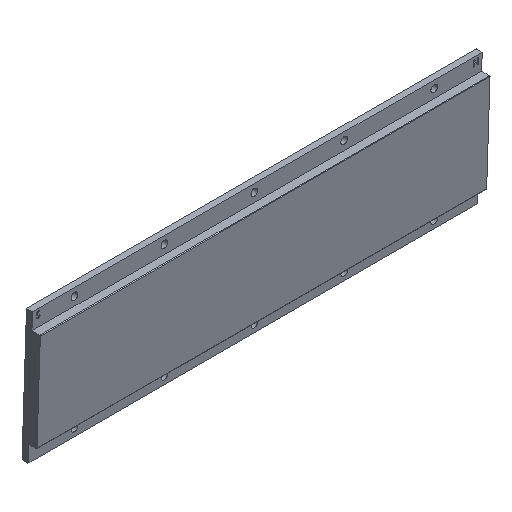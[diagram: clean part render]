
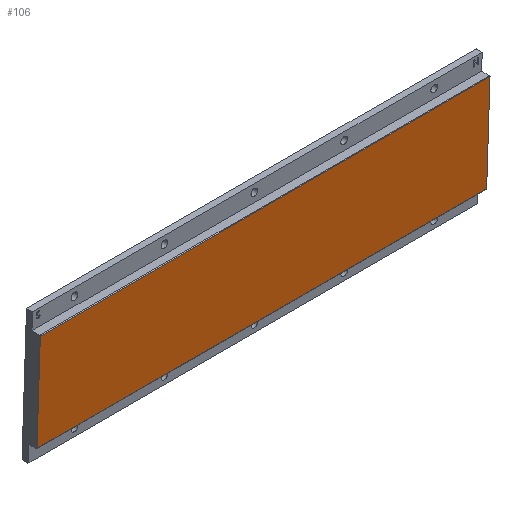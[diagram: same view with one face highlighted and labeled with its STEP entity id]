
A CAD part, isometric view. The second image highlights one B-rep face of the part: STEP entity #106.
In plain terms, the highlighted planar face has unit normal (0, -1, 0).
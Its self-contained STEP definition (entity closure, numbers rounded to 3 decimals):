
#106 = ADVANCED_FACE( '', ( #242 ), #243, .T. );
#242 = FACE_OUTER_BOUND( '', #402, .T. );
#243 = PLANE( '', #403 );
#402 = EDGE_LOOP( '', ( #675, #676, #677, #678 ) );
#403 = AXIS2_PLACEMENT_3D( '', #679, #680, #681 );
#675 = ORIENTED_EDGE( '', *, *, #1007, .T. );
#676 = ORIENTED_EDGE( '', *, *, #1001, .T. );
#677 = ORIENTED_EDGE( '', *, *, #923, .T. );
#678 = ORIENTED_EDGE( '', *, *, #952, .T. );
#679 = CARTESIAN_POINT( '', ( 0., -5.6, 0. ) );
#680 = DIRECTION( '', ( 0., -1., 0. ) );
#681 = DIRECTION( '', ( 0., 0., -1. ) );
#923 = EDGE_CURVE( '', #1073, #1074, #1075, .T. );
#952 = EDGE_CURVE( '', #1074, #1119, #1121, .T. );
#1001 = EDGE_CURVE( '', #1198, #1073, #1200, .T. );
#1007 = EDGE_CURVE( '', #1119, #1198, #1208, .T. );
#1073 = VERTEX_POINT( '', #1352 );
#1074 = VERTEX_POINT( '', #1353 );
#1075 = LINE( '', #1354, #1355 );
#1119 = VERTEX_POINT( '', #1424 );
#1121 = LINE( '', #1426, #1427 );
#1198 = VERTEX_POINT( '', #1569 );
#1200 = LINE( '', #1571, #1572 );
#1208 = LINE( '', #1585, #1586 );
#1352 = CARTESIAN_POINT( '', ( 123.587, -5.6, -30.442 ) );
#1353 = CARTESIAN_POINT( '', ( 125.808, -5.6, 33.158 ) );
#1354 = CARTESIAN_POINT( '', ( 123.573, -5.6, -30.842 ) );
#1355 = VECTOR( '', #1733, 1000. );
#1424 = CARTESIAN_POINT( '', ( -174.191, -5.6, 33.158 ) );
#1426 = CARTESIAN_POINT( '', ( -174.177, -5.6, 33.158 ) );
#1427 = VECTOR( '', #1768, 1000. );
#1569 = CARTESIAN_POINT( '', ( -176.41, -5.6, -30.442 ) );
#1571 = CARTESIAN_POINT( '', ( 123.573, -5.6, -30.442 ) );
#1572 = VECTOR( '', #1819, 1000. );
#1585 = CARTESIAN_POINT( '', ( -174.177, -5.6, 33.558 ) );
#1586 = VECTOR( '', #1822, 1000. );
#1733 = DIRECTION( '', ( 0.035, 0., 0.999 ) );
#1768 = DIRECTION( '', ( -1., 0., 0. ) );
#1819 = DIRECTION( '', ( 1., 0., 0. ) );
#1822 = DIRECTION( '', ( -0.035, 0., -0.999 ) );
